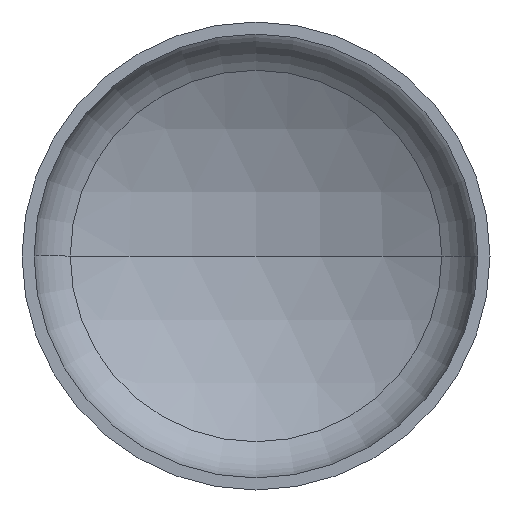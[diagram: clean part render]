
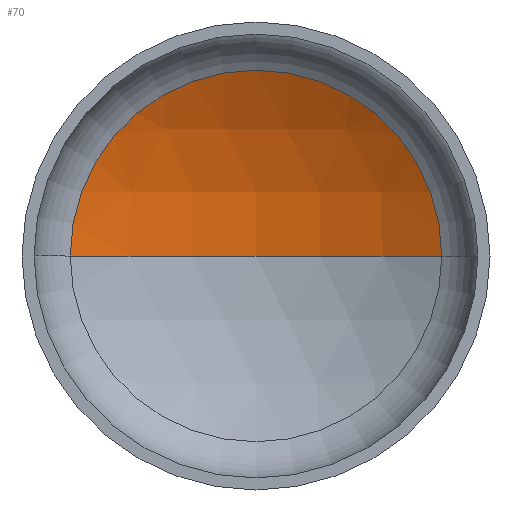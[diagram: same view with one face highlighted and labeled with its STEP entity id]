
A CAD part, front view. The second image highlights one B-rep face of the part: STEP entity #70.
In plain terms, the highlighted spherical face has radius 2240 mm.
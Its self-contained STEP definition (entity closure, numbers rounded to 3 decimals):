
#4 = EDGE_LOOP ( 'NONE', ( #111, #76, #184 ) ) ;
#32 = VERTEX_POINT ( 'NONE', #283 ) ;
#34 = AXIS2_PLACEMENT_3D ( 'NONE', #66, #60, #207 ) ;
#37 = AXIS2_PLACEMENT_3D ( 'NONE', #196, #54, #50 ) ;
#41 = FACE_OUTER_BOUND ( 'NONE', #4, .T. ) ;
#45 = AXIS2_PLACEMENT_3D ( 'NONE', #286, #284, #306 ) ;
#50 = DIRECTION ( 'NONE',  ( -1., 0., 0. ) ) ;
#54 = DIRECTION ( 'NONE',  ( 0., 0., -1. ) ) ;
#57 = AXIS2_PLACEMENT_3D ( 'NONE', #282, #265, #351 ) ;
#60 = DIRECTION ( 'NONE',  ( 0., 0., 1. ) ) ;
#66 = CARTESIAN_POINT ( 'NONE',  ( 0., -1451.527, 0. ) ) ;
#70 = ADVANCED_FACE ( 'NONE', ( #41 ), #354, .F. ) ;
#76 = ORIENTED_EDGE ( 'NONE', *, *, #194, .T. ) ;
#91 = VERTEX_POINT ( 'NONE', #339 ) ;
#111 = ORIENTED_EDGE ( 'NONE', *, *, #200, .F. ) ;
#117 = VERTEX_POINT ( 'NONE', #254 ) ;
#181 = EDGE_CURVE ( 'NONE', #117, #91, #346, .T. ) ;
#184 = ORIENTED_EDGE ( 'NONE', *, *, #181, .T. ) ;
#194 = EDGE_CURVE ( 'NONE', #32, #117, #268, .T. ) ;
#196 = CARTESIAN_POINT ( 'NONE',  ( 0., -1451.527, 0. ) ) ;
#200 = EDGE_CURVE ( 'NONE', #32, #91, #205, .T. ) ;
#205 = CIRCLE ( 'NONE', #34, 2240. ) ;
#207 = DIRECTION ( 'NONE',  ( 1., 0., 0. ) ) ;
#254 = CARTESIAN_POINT ( 'NONE',  ( 1111.337, 493.346, 0. ) ) ;
#265 = DIRECTION ( 'NONE',  ( 0., 0., -1. ) ) ;
#268 = CIRCLE ( 'NONE', #37, 2240. ) ;
#282 = CARTESIAN_POINT ( 'NONE',  ( 0., -1451.527, 0. ) ) ;
#283 = CARTESIAN_POINT ( 'NONE',  ( 0., 788.473, 0. ) ) ;
#284 = DIRECTION ( 'NONE',  ( 0., -1., 0. ) ) ;
#286 = CARTESIAN_POINT ( 'NONE',  ( 0., 493.346, 0. ) ) ;
#306 = DIRECTION ( 'NONE',  ( 1., 0., 0. ) ) ;
#339 = CARTESIAN_POINT ( 'NONE',  ( -1111.337, 493.346, 0. ) ) ;
#346 = CIRCLE ( 'NONE', #45, 1111.337 ) ;
#351 = DIRECTION ( 'NONE',  ( -1., 0., 0. ) ) ;
#354 = SPHERICAL_SURFACE ( 'NONE', #57, 2240. ) ;
